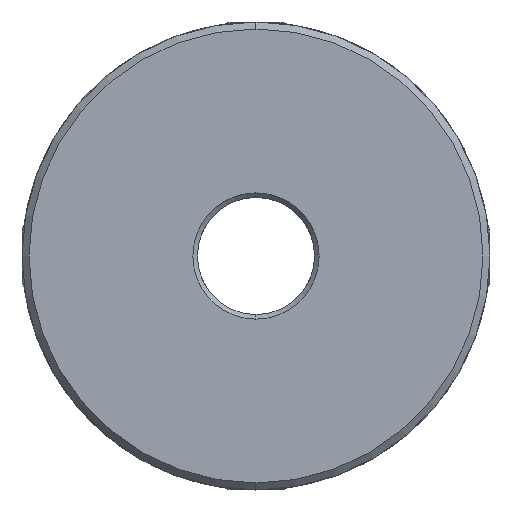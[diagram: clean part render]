
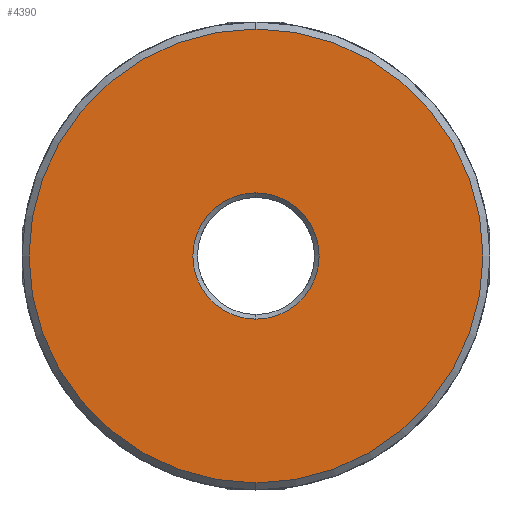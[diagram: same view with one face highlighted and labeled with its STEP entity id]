
A CAD part, front view. The second image highlights one B-rep face of the part: STEP entity #4390.
In plain terms, the highlighted planar face has unit normal (0, -1, 0).
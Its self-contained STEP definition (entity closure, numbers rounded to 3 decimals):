
#436 = CARTESIAN_POINT ( 'NONE',  ( 0., 0., -19.4 ) ) ;
#485 = DIRECTION ( 'NONE',  ( 0., 0., 1. ) ) ;
#690 = ORIENTED_EDGE ( 'NONE', *, *, #2462, .T. ) ;
#912 = EDGE_LOOP ( 'NONE', ( #1960, #4841 ) ) ;
#959 = CARTESIAN_POINT ( 'NONE',  ( 0., 0., 0. ) ) ;
#1205 = FACE_OUTER_BOUND ( 'NONE', #3163, .T. ) ;
#1275 = VERTEX_POINT ( 'NONE', #2395 ) ;
#1541 = DIRECTION ( 'NONE',  ( 0., 1., 0. ) ) ;
#1701 = CIRCLE ( 'NONE', #7496, 19.4 ) ;
#1766 = EDGE_CURVE ( 'NONE', #3419, #1275, #3477, .T. ) ;
#1863 = CARTESIAN_POINT ( 'NONE',  ( 0., 0., 0. ) ) ;
#1891 = DIRECTION ( 'NONE',  ( 0., 1., 0. ) ) ;
#1960 = ORIENTED_EDGE ( 'NONE', *, *, #4003, .T. ) ;
#2136 = DIRECTION ( 'NONE',  ( 0., 0., 1. ) ) ;
#2175 = DIRECTION ( 'NONE',  ( 0., 0., 1. ) ) ;
#2301 = CARTESIAN_POINT ( 'NONE',  ( 0., 0., 0. ) ) ;
#2340 = VERTEX_POINT ( 'NONE', #5028 ) ;
#2395 = CARTESIAN_POINT ( 'NONE',  ( 0., 0., -5.4 ) ) ;
#2462 = EDGE_CURVE ( 'NONE', #4075, #2340, #4664, .T. ) ;
#2529 = EDGE_CURVE ( 'NONE', #2340, #4075, #1701, .T. ) ;
#2745 = AXIS2_PLACEMENT_3D ( 'NONE', #6906, #1541, #2136 ) ;
#3005 = ORIENTED_EDGE ( 'NONE', *, *, #2529, .T. ) ;
#3163 = EDGE_LOOP ( 'NONE', ( #3005, #690 ) ) ;
#3192 = CARTESIAN_POINT ( 'NONE',  ( 0., 0., 5.4 ) ) ;
#3281 = CARTESIAN_POINT ( 'NONE',  ( 24.74, 0., -50. ) ) ;
#3355 = FACE_BOUND ( 'NONE', #912, .T. ) ;
#3419 = VERTEX_POINT ( 'NONE', #3192 ) ;
#3442 = DIRECTION ( 'NONE',  ( 0., -1., 0. ) ) ;
#3477 = CIRCLE ( 'NONE', #7230, 5.4 ) ;
#3793 = DIRECTION ( 'NONE',  ( 0., 0., 1. ) ) ;
#4003 = EDGE_CURVE ( 'NONE', #1275, #3419, #4184, .T. ) ;
#4022 = PLANE ( 'NONE',  #6134 ) ;
#4075 = VERTEX_POINT ( 'NONE', #436 ) ;
#4184 = CIRCLE ( 'NONE', #2745, 5.4 ) ;
#4390 = ADVANCED_FACE ( 'NONE', ( #3355, #1205 ), #4022, .F. ) ;
#4664 = CIRCLE ( 'NONE', #4668, 19.4 ) ;
#4668 = AXIS2_PLACEMENT_3D ( 'NONE', #959, #3442, #2175 ) ;
#4841 = ORIENTED_EDGE ( 'NONE', *, *, #1766, .T. ) ;
#4882 = DIRECTION ( 'NONE',  ( 0., 0., 1. ) ) ;
#5028 = CARTESIAN_POINT ( 'NONE',  ( 0., 0., 19.4 ) ) ;
#6134 = AXIS2_PLACEMENT_3D ( 'NONE', #3281, #7457, #3793 ) ;
#6546 = DIRECTION ( 'NONE',  ( 0., -1., 0. ) ) ;
#6906 = CARTESIAN_POINT ( 'NONE',  ( 0., 0., 0. ) ) ;
#7230 = AXIS2_PLACEMENT_3D ( 'NONE', #1863, #1891, #4882 ) ;
#7457 = DIRECTION ( 'NONE',  ( 0., 1., 0. ) ) ;
#7496 = AXIS2_PLACEMENT_3D ( 'NONE', #2301, #6546, #485 ) ;
